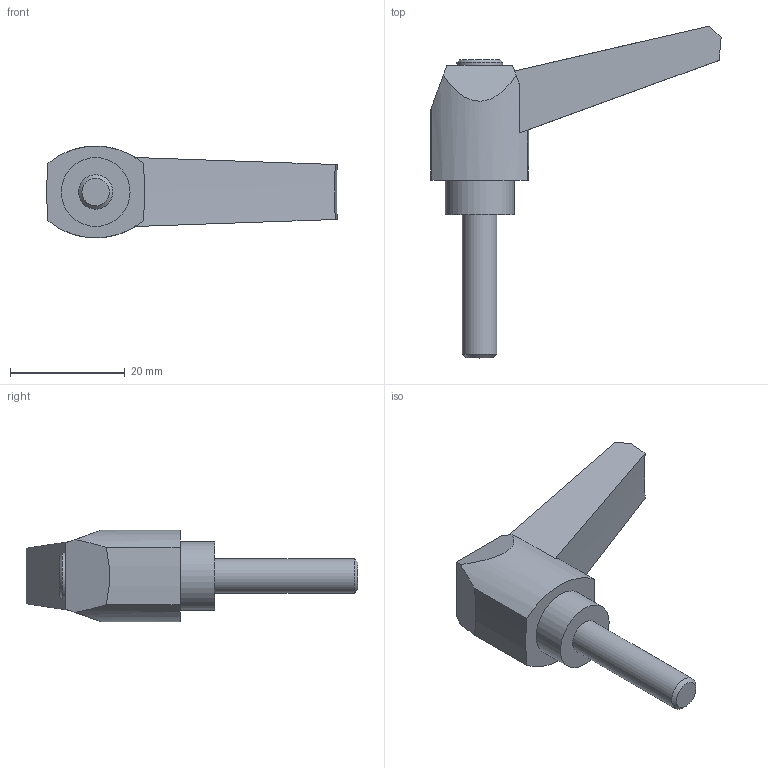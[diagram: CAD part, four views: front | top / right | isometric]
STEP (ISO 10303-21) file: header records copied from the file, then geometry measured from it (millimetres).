
FILE_DESCRIPTION( ( 'STEP AP203' ), '1' );
FILE_NAME( 'C:/Temp/Ganter_Step_05_03_2020/data/2_1/gn_500/gn_500_ms/Adjustable hand lever GN 500-42-M6-25-SW.stp', '2020-03-05T11:26:31', ( 'License CC BY-ND 4.0' ), ( 'CADENAS' ), ' ', 'PARTsolutions', ' ' );
FILE_SCHEMA( ( 'CONFIG_CONTROL_DESIGN' ) );
Length unit declared in the file: millimetre
Products named in the file (1): _Adjustable hand lever GN 500-42-M6-25-SW
Bounding box: 50.59 x 57.85 x 16 mm (x, y, z)
Volume: 9021.4 mm3; surface area: 3483.8 mm2
Topology: 1 solids, 1 shells, 24 faces, 56 edges, 37 vertices
Faces by surface type: plane 11, cylinder 7, cone 6
Full cylindrical faces by diameter (mm): 6 x1, 8 x1, 12 x1
Entity records: 708 total; most frequent: CARTESIAN_POINT 123, DIRECTION 118, ORIENTED_EDGE 100, EDGE_CURVE 50, AXIS2_PLACEMENT_3D 47, VERTEX_POINT 36, EDGE_LOOP 32, FACE_OUTER_BOUND 27
